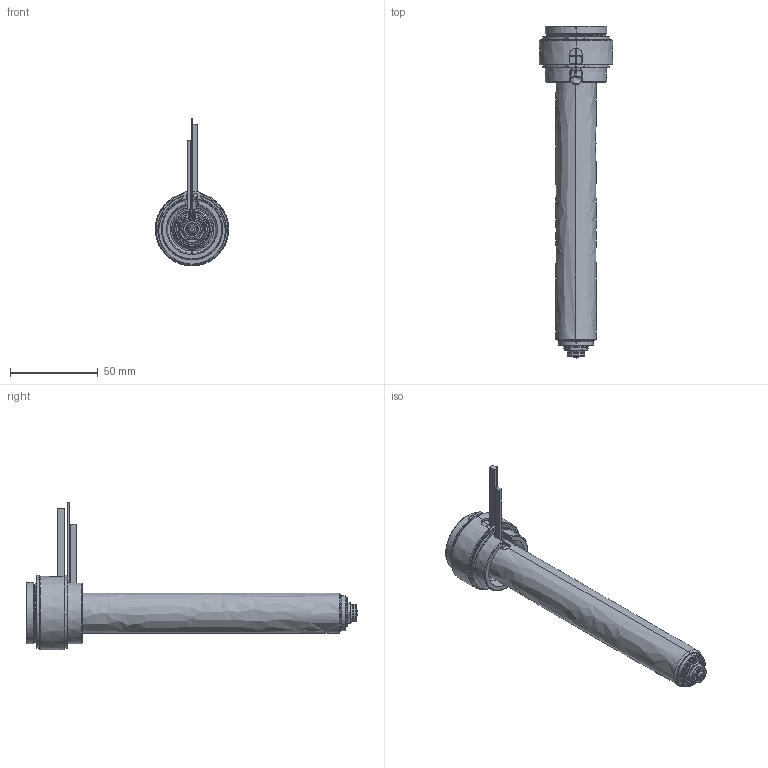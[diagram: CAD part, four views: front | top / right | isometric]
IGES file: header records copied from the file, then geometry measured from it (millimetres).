
Start section: SolidWorks IGES file using analytic representation for surfaces
Global section: file name: C:\Documents and Settings\ws-20\Desktop\TEM\UGER3554-S-A-1 [Øb-0.90  ØC-7.0].IGS; native system: SolidWorks 2012; preprocessor: SolidWorks 2012; author: ws-20; date: 120410.101603; units: millimetre
Bounding box: 42 x 189.4 x 84.4 mm (x, y, z)
Surface area: 43559.5 mm2 (no closed solid volume)
Topology: 0 solids, 0 shells, 206 faces, 3574 edges, 3574 vertices
Faces by surface type: revolution 132, bspline 74
